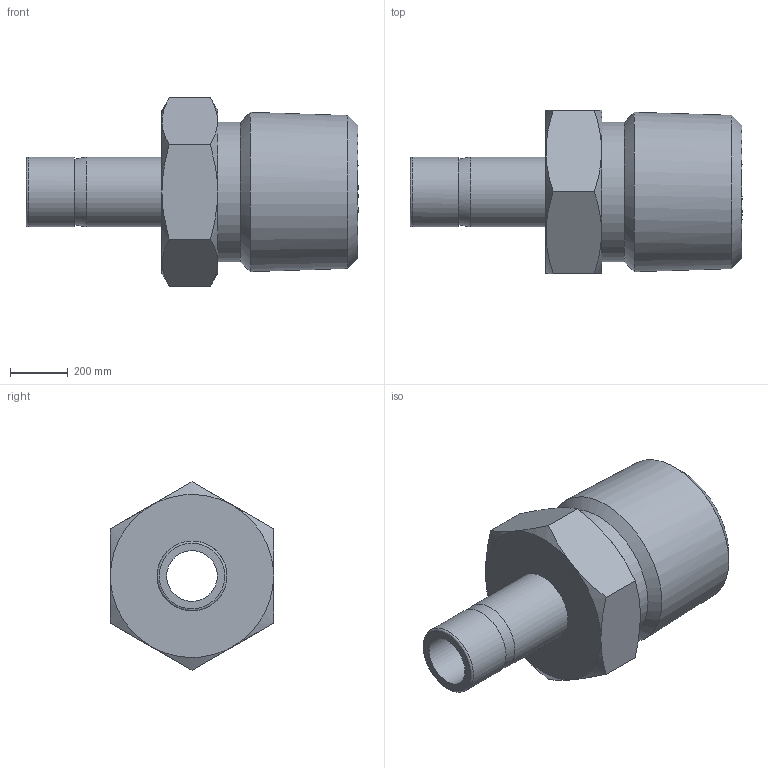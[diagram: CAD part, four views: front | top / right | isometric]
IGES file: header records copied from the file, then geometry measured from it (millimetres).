
Global section: file name: SMA-6-8N; native system: Autodesk Inventor 2016; preprocessor: unknown; author: DESIGNPC2; date: 20151221.100015; units: millimetre
Bounding box: 1148.08 x 564.51 x 651.85 mm (x, y, z)
Volume: 152436332.1 mm3; surface area: 2676348.6 mm2
Topology: 1 solids, 1 shells, 23 faces, 65 edges, 47 vertices
Faces by surface type: bspline 23
